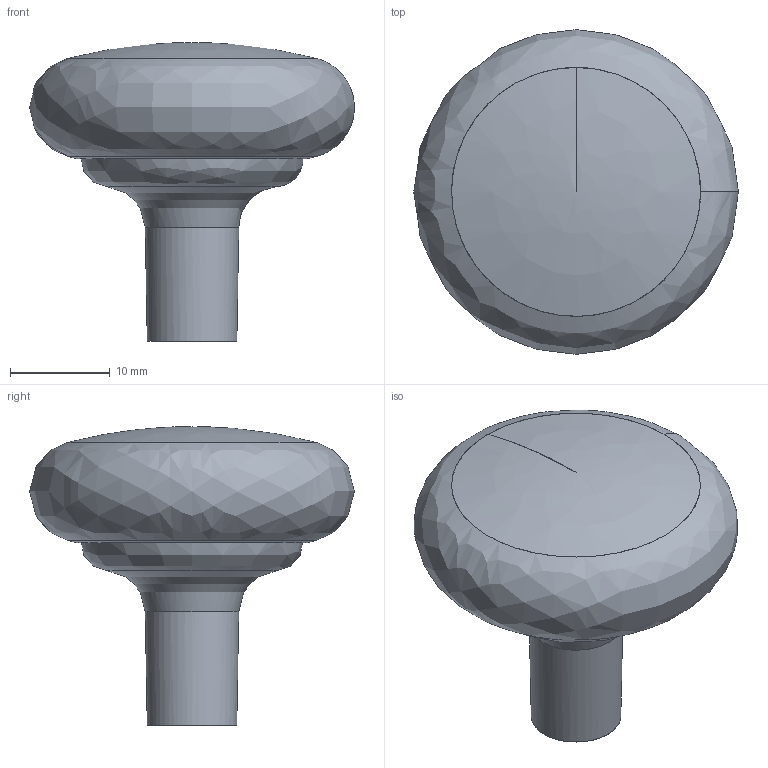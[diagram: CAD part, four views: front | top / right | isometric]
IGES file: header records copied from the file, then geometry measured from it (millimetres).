
Start section: C
Global section: file name: 8125.igs; native system: By Siemens PLM Incorporated; preprocessor: XPlus GENERIC/IGES 16.0.42; author: Author; organization: Title; date: 20231122.152430; units: millimetre
Bounding box: 32.59 x 32.59 x 30 mm (x, y, z)
Surface area: 4502.4 mm2 (no closed solid volume)
Topology: 0 solids, 0 shells, 23 faces, 129 edges, 126 vertices
Faces by surface type: bspline 23
